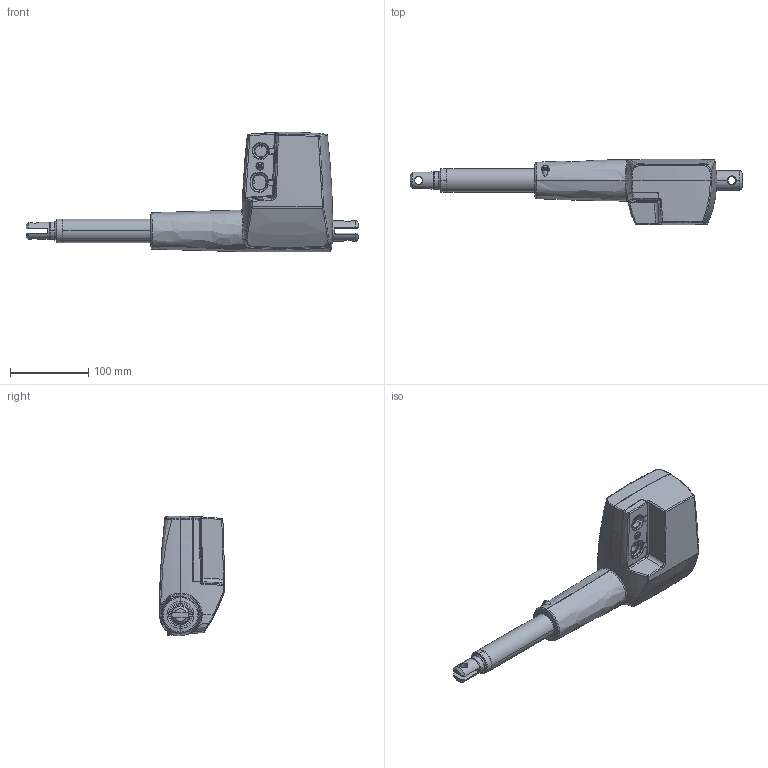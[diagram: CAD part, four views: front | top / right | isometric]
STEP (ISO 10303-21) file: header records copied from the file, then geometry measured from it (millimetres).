
FILE_DESCRIPTION((''),'2;1');
FILE_NAME('LA35','2008-01-10T',('KH'),(''),'PRO/ENGINEER BY PARAMETRIC TECHNOLOGY CORPORATION, 2007310','PRO/ENGINEER BY PARAMETRIC TECHNOLOGY CORPORATION, 2007310','');
FILE_SCHEMA(('CONFIG_CONTROL_DESIGN'));
Products named in the file (1): LA35
Bounding box: 424 x 83.43 x 152.63 mm (x, y, z)
Volume: 1437891.7 mm3; surface area: 115030.1 mm2
Topology: 1 solids, 1 shells, 805 faces, 2223 edges, 1427 vertices
Faces by surface type: cylinder 211, torus 186, bspline 174, cone 115, plane 86, sphere 33
Entity records: 47977 total; most frequent: CARTESIAN_POINT 20779, ORIENTED_EDGE 4400, DIRECTION 3997, PRESENTATION_STYLE_ASSIGNMENT 2278, STYLED_ITEM 2201, CURVE_STYLE 2200, EDGE_CURVE 2200, AXIS2_PLACEMENT_3D 1804
